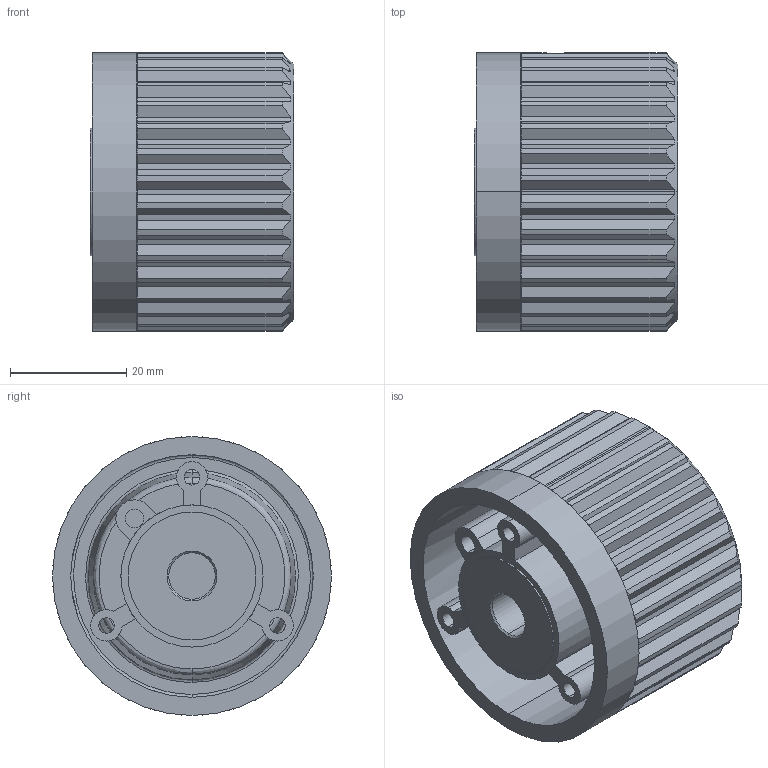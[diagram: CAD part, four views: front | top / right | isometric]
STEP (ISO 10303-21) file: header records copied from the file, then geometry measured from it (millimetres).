
FILE_DESCRIPTION (( 'STEP AP214' ), '1' );
FILE_NAME ('D.STEP', '2017-03-22T13:47:43', ( '' ), ( '' ), 'SwSTEP 2.0', 'SolidWorks 2016', '' );
FILE_SCHEMA (( 'AUTOMOTIVE_DESIGN' ));
Length unit declared in the file: millimetre
Products named in the file (1): D
Bounding box: 35 x 48 x 48 mm (x, y, z)
Volume: 28406.7 mm3; surface area: 22599.1 mm2
Topology: 1 solids, 1 shells, 225 faces, 611 edges, 401 vertices
Faces by surface type: cylinder 110, plane 95, bspline 12, cone 8
Entity records: 7790 total; most frequent: CARTESIAN_POINT 2062, ORIENTED_EDGE 1222, DIRECTION 1188, EDGE_CURVE 611, AXIS2_PLACEMENT_3D 455, VERTEX_POINT 401, VECTOR 278, LINE 278
